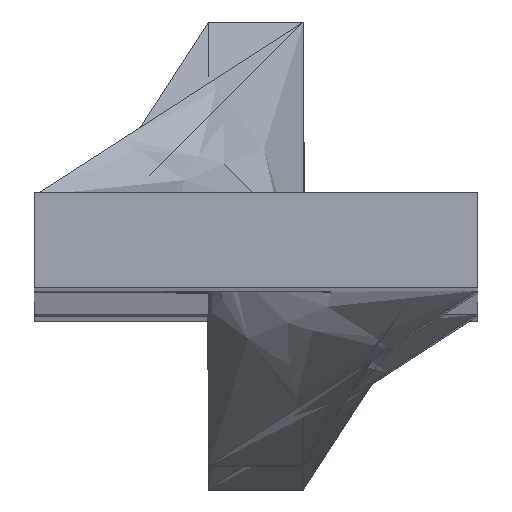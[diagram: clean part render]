
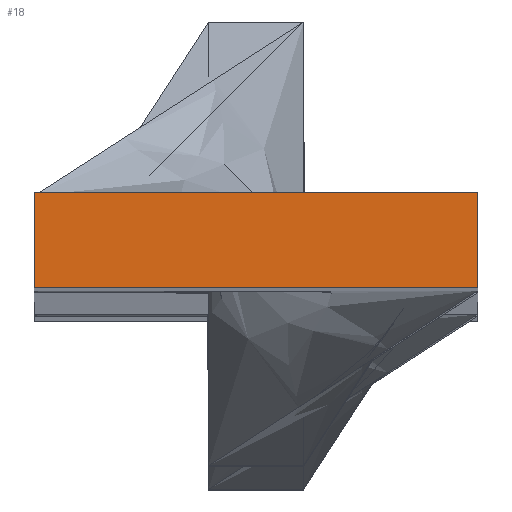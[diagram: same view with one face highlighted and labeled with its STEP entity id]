
A CAD part, top view. The second image highlights one B-rep face of the part: STEP entity #18.
In plain terms, the highlighted planar face has unit normal (0, 0, 1).
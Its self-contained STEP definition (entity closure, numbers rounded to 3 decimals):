
#1 = EDGE_CURVE ( 'NONE', #69, #30, #342, .T. ) ;
#2 = ORIENTED_EDGE ( 'NONE', *, *, #12, .T. ) ;
#6 = ORIENTED_EDGE ( 'NONE', *, *, #68, .T. ) ;
#12 = EDGE_CURVE ( 'NONE', #30, #78, #405, .T. ) ;
#16 = ORIENTED_EDGE ( 'NONE', *, *, #1, .T. ) ;
#18 = ADVANCED_FACE ( 'NONE', ( #397 ), #399, .T. ) ;
#21 = ORIENTED_EDGE ( 'NONE', *, *, #93, .T. ) ;
#24 = EDGE_LOOP ( 'NONE', ( #21, #6, #16, #2 ) ) ;
#30 = VERTEX_POINT ( 'NONE', #431 ) ;
#59 = DIRECTION ( 'NONE',  ( 0., -1., 0. ) ) ;
#64 = VECTOR ( 'NONE', #59, 1000. ) ;
#68 = EDGE_CURVE ( 'NONE', #92, #69, #494, .T. ) ;
#69 = VERTEX_POINT ( 'NONE', #554 ) ;
#78 = VERTEX_POINT ( 'NONE', #505 ) ;
#92 = VERTEX_POINT ( 'NONE', #508 ) ;
#93 = EDGE_CURVE ( 'NONE', #78, #92, #510, .T. ) ;
#339 = DIRECTION ( 'NONE',  ( 0., 1., 0. ) ) ;
#340 = VECTOR ( 'NONE', #339, 1000. ) ;
#341 = CARTESIAN_POINT ( 'NONE',  ( 14., 3., 608.5 ) ) ;
#342 = LINE ( 'NONE', #341, #340 ) ;
#394 = AXIS2_PLACEMENT_3D ( 'NONE', #396, #413, #404 ) ;
#396 = CARTESIAN_POINT ( 'NONE',  ( 0., 0., 608.5 ) ) ;
#397 = FACE_OUTER_BOUND ( 'NONE', #24, .T. ) ;
#399 = PLANE ( 'NONE',  #394 ) ;
#401 = DIRECTION ( 'NONE',  ( -1., 0., 0. ) ) ;
#402 = VECTOR ( 'NONE', #401, 1000. ) ;
#403 = CARTESIAN_POINT ( 'NONE',  ( 0., 3., 608.5 ) ) ;
#404 = DIRECTION ( 'NONE',  ( 1., 0., 0. ) ) ;
#405 = LINE ( 'NONE', #403, #402 ) ;
#413 = DIRECTION ( 'NONE',  ( 0., 0., 1. ) ) ;
#431 = CARTESIAN_POINT ( 'NONE',  ( 14., 3., 608.5 ) ) ;
#492 = VECTOR ( 'NONE', #530, 1000. ) ;
#493 = CARTESIAN_POINT ( 'NONE',  ( 0., 0., 608.5 ) ) ;
#494 = LINE ( 'NONE', #493, #492 ) ;
#505 = CARTESIAN_POINT ( 'NONE',  ( 0., 3., 608.5 ) ) ;
#508 = CARTESIAN_POINT ( 'NONE',  ( 0., 0., 608.5 ) ) ;
#509 = CARTESIAN_POINT ( 'NONE',  ( 0., 3., 608.5 ) ) ;
#510 = LINE ( 'NONE', #509, #64 ) ;
#530 = DIRECTION ( 'NONE',  ( 1., 0., 0. ) ) ;
#554 = CARTESIAN_POINT ( 'NONE',  ( 14., 0., 608.5 ) ) ;
